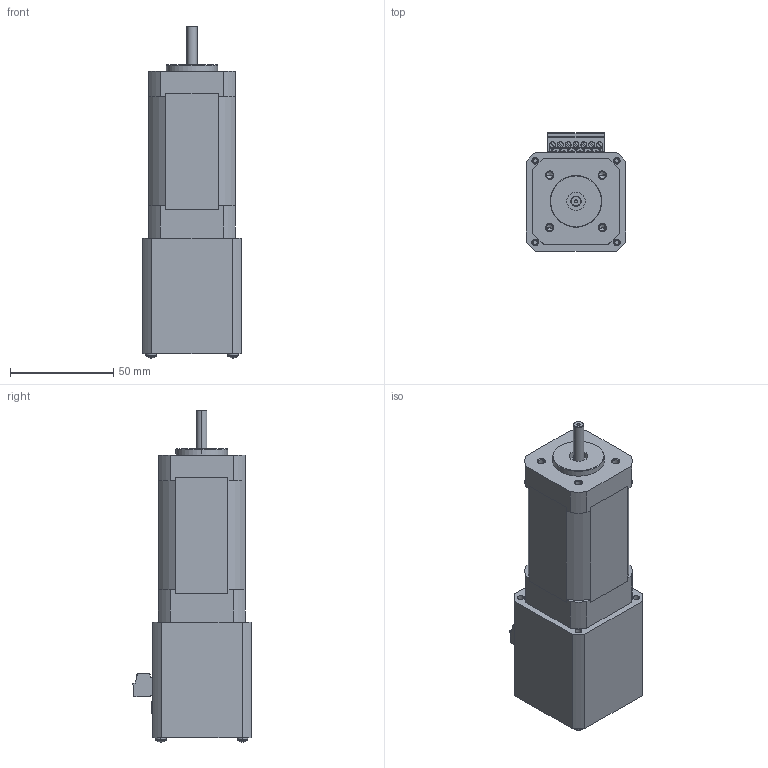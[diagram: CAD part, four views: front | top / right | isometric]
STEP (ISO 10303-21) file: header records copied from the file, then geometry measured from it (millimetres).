
FILE_DESCRIPTION (( 'STEP AP214' ), '1' );
FILE_NAME ('BLY17MD3S.STEP', '2010-06-08T22:20:11', ( 'Tim Raines' ), ( 'Anaheim Automation' ), 'SwSTEP 2.0', 'SolidWorks 2010', '' );
FILE_SCHEMA (( 'AUTOMOTIVE_DESIGN' ));
Length unit declared in the file: inch
Products named in the file (7): Label for BLY17MD Series; BLY17MD Series driver_BLY17MD3,4; BLY17MD Series motor_BLY17MD3; BLY17MD3S; Pan Cross Head_AM_B18.6.7M - M2.5 x 0.45 x 25 Type I Cross Recessed PHMS --25S; 1803620; 1803471
Assembly tree (9 placements, depth 2):
  BLY17MD3S
    Label for BLY17MD Series
    BLY17MD Series driver_BLY17MD3,4
    Pan Cross Head_AM_B18.6.7M - M2.5 x 0.45 x 25 Type I Cross Recessed PHMS --25S  x4
    1803620
    BLY17MD Series motor_BLY17MD3
    1803471
Bounding box: 48.01 x 57.51 x 160.92 mm (x, y, z)
Volume: 264514.8 mm3; surface area: 41838.6 mm2
Topology: 9 solids, 9 shells, 2824 faces, 7369 edges, 4700 vertices
Faces by surface type: plane 988, cone 931, cylinder 760, bspline 129, torus 8, sphere 8
Entity records: 77006 total; most frequent: CARTESIAN_POINT 15902, ORIENTED_EDGE 9064, DIRECTION 8694, EDGE_CURVE 4532, VERTEX_POINT 2948, VECTOR 2900, LINE 2900, AXIS2_PLACEMENT_3D 2897
